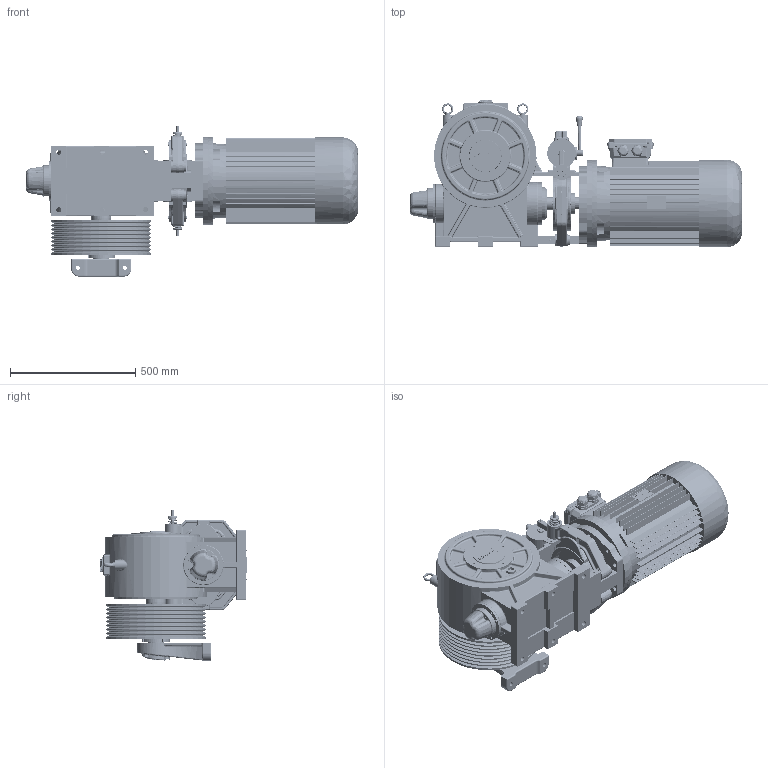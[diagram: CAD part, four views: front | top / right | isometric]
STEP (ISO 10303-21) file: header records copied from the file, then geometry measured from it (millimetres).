
FILE_DESCRIPTION (( 'STEP AP214' ), '1' );
FILE_NAME ('FC18506321.STEP', '2025-12-23T11:04:32', ( '' ), ( '' ), 'SwSTEP 2.0', 'SolidWorks 2023', '' );
FILE_SCHEMA (( 'AUTOMOTIVE_DESIGN' ));
Length unit declared in the file: millimetre
Products named in the file (1): FC18506321
Bounding box: 1327 x 739.15 x 676.07 mm (x, y, z)
Volume: 116133422.7 mm3; surface area: 5598769.7 mm2
Topology: 53 solids, 61 shells, 5618 faces, 13491 edges, 8108 vertices
Faces by surface type: cylinder 1700, plane 1493, bspline 1148, torus 568, cone 439, sphere 270
Entity records: 229820 total; most frequent: CARTESIAN_POINT 106954, ORIENTED_EDGE 26654, DIRECTION 24051, EDGE_CURVE 13327, AXIS2_PLACEMENT_3D 9647, VERTEX_POINT 8104, EDGE_LOOP 6193, FACE_OUTER_BOUND 5618
